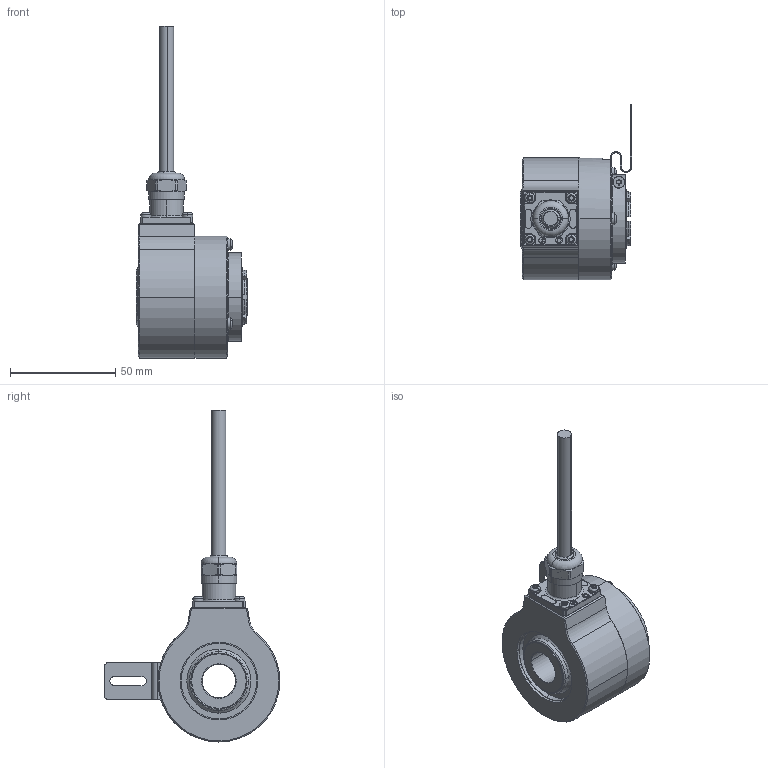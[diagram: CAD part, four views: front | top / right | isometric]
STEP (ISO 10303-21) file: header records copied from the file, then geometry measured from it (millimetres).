
FILE_DESCRIPTION (( 'STEP AP203' ), '1' );
FILE_NAME ('K58I.OXX.XXXXX.XH25516.XXR11.XXXX.step', '2025-12-03T09:26:03', ( '' ), ( '' ), 'SwSTEP 2.0', 'SolidWorks 2021', '' );
FILE_SCHEMA (( 'CONFIG_CONTROL_DESIGN' ));
Length unit declared in the file: millimetre
Products named in the file (1): K58I.OXX.XXXXX.XH25516.XXR11.XXXX
Bounding box: 52.85 x 83.61 x 158 mm (x, y, z)
Volume: 125574.6 mm3; surface area: 56654.3 mm2
Topology: 11 solids, 11 shells, 856 faces, 2208 edges, 1389 vertices
Faces by surface type: cylinder 365, plane 264, cone 110, torus 55, bspline 46, sphere 16
Entity records: 29086 total; most frequent: CARTESIAN_POINT 8213, DIRECTION 4417, ORIENTED_EDGE 4392, EDGE_CURVE 2196, AXIS2_PLACEMENT_3D 1721, VERTEX_POINT 1389, LINE 975, VECTOR 975
